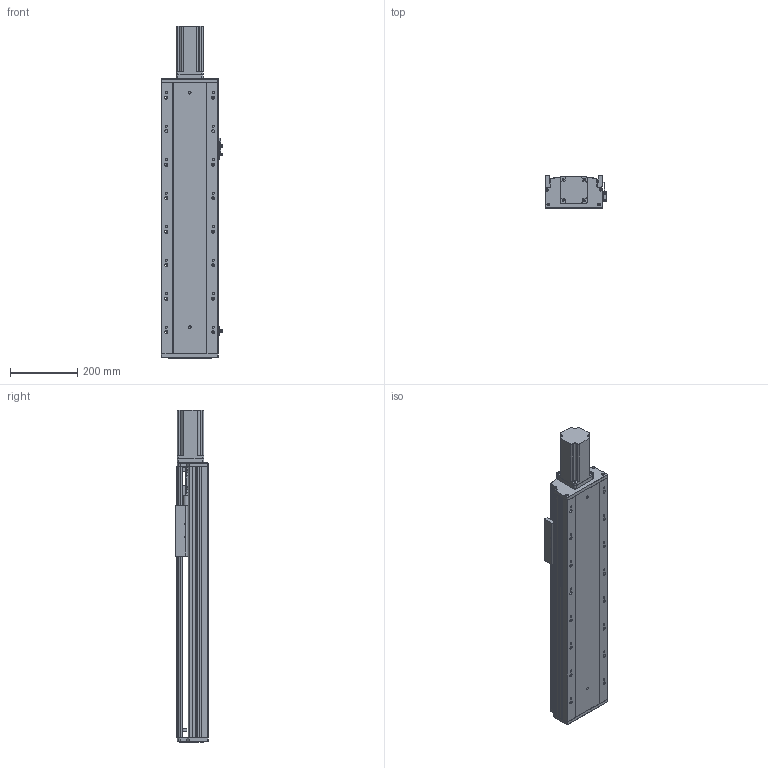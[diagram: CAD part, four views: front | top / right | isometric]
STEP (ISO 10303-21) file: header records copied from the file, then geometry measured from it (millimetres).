
FILE_DESCRIPTION (( 'STEP AP203' ), '1' );
FILE_NAME ('RY170-L2510-300-MK(FK17).SLDASM_500.step', '2022-08-23T02:00:19', ( '' ), ( '' ), 'SwSTEP 2.0', 'SolidWorks 2016', '' );
FILE_SCHEMA (( 'CONFIG_CONTROL_DESIGN' ));
Length unit declared in the file: millimetre
Products named in the file (15): RY170-300倰第裔啣-MK_500; RY170臏賑輸25佪裝蹟譫; RY170电机端支撑座(25丝杆7004轴承)-压铸(FK17); RY170-300倰第菁釱-MK_500; 滅袉蝶18-10; 侂狟400W侜督萇儂; RY170-L2510-300-MK(FK17).SLDASM_500; RY170外置感应片(200共用）; 15; 750W萇儂梓袧蛌諉啣; 覜茼ん672; RY170綴裔啣; 滅袉蝶18-28; 侂狟750W萇儂ㄗ80遺ㄘ; RY170ヶ醱裔啣
Assembly tree (16 placements, depth 3):
  RY170-L2510-300-MK(FK17).SLDASM_500
    RY170-300倰第菁釱-MK_500
    RY170-300倰第裔啣-MK_500
    RY170臏賑輸25佪裝蹟譫
    侂狟400W侜督萇儂
      15
    RY170綴裔啣
    RY170电机端支撑座(25丝杆7004轴承)-压铸(FK17)
    覜茼ん672  x3
    RY170外置感应片(200共用）
    RY170ヶ醱裔啣
    滅袉蝶18-28
    滅袉蝶18-10
    侂狟750W萇儂ㄗ80遺ㄘ
    750W萇儂梓袧蛌諉啣
Bounding box: 183.7 x 97 x 991 mm (x, y, z)
Volume: 5649865.6 mm3; surface area: 1565501.9 mm2
Topology: 15 solids, 15 shells, 2189 faces, 6287 edges, 4028 vertices
Faces by surface type: plane 1014, cylinder 916, cone 223, bspline 36
Entity records: 71095 total; most frequent: CARTESIAN_POINT 16586, ORIENTED_EDGE 11322, DIRECTION 10879, EDGE_CURVE 5661, AXIS2_PLACEMENT_3D 3778, VERTEX_POINT 3708, LINE 3323, VECTOR 3323
